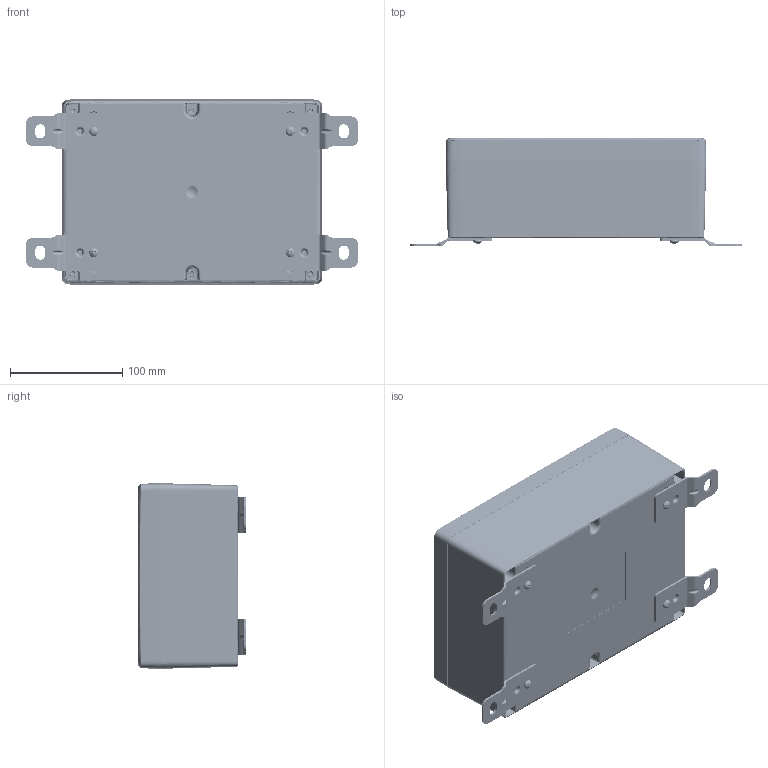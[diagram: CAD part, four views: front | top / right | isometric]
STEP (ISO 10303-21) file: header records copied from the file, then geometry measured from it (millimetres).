
FILE_DESCRIPTION (( 'STEP AP214' ), '1' );
FILE_NAME ('HN-69-24.STEP', '2026-09-24T18:08:59', ( '' ), ( '' ), 'SwSTEP 2.0', 'SolidWorks 2026', '' );
FILE_SCHEMA (( 'AUTOMOTIVE_DESIGN' ));
Length unit declared in the file: inch
Products named in the file (11): LABEL-107; HN-69CG_HN-69CG-02; HN-69BN_HN-69BPN-00; HN-69G_default; SCREWS-054_DEFAULT; HN-69B_HN-69BP-00; SCREWS-xxx_#8-16 PLASTITE, PAN, PHILLIPS_SCREWS-044; HN-69C_HN-69C-02; HN-69-24; ZH-91F_ZH-91F-01; INSERTS-3_INSERTS-3
Assembly tree (26 placements, depth 3):
  HN-69-24
    HN-69B_HN-69BP-00
      HN-69BN_HN-69BPN-00
      INSERTS-3_INSERTS-3  x6
      LABEL-107
    HN-69CG_HN-69CG-02
      HN-69C_HN-69C-02
      HN-69G_default
    SCREWS-054_DEFAULT  x6
    ZH-91F_ZH-91F-01  x4
    SCREWS-xxx_#8-16 PLASTITE, PAN, PHILLIPS_SCREWS-044  x4
Bounding box: 295.27 x 96.34 x 165.1 mm (x, y, z)
Volume: 546421.6 mm3; surface area: 353676.7 mm2
Topology: 24 solids, 24 shells, 5412 faces, 13066 edges, 7715 vertices
Faces by surface type: torus 1184, cone 1128, bspline 1048, plane 1022, cylinder 942, sphere 88
Full cylindrical faces by diameter (mm): 2.413 x6, 2.705 x6, 4.318 x6, 4.445 x24, 4.699 x12, 5.105 x4, 5.283 x12, 6.274 x6, 6.858 x6, 8.179 x4
Entity records: 172887 total; most frequent: CARTESIAN_POINT 81550, ORIENTED_EDGE 20552, DIRECTION 16867, EDGE_CURVE 10276, AXIS2_PLACEMENT_3D 7339, VERTEX_POINT 6210, EDGE_LOOP 4636, FACE_OUTER_BOUND 4424
